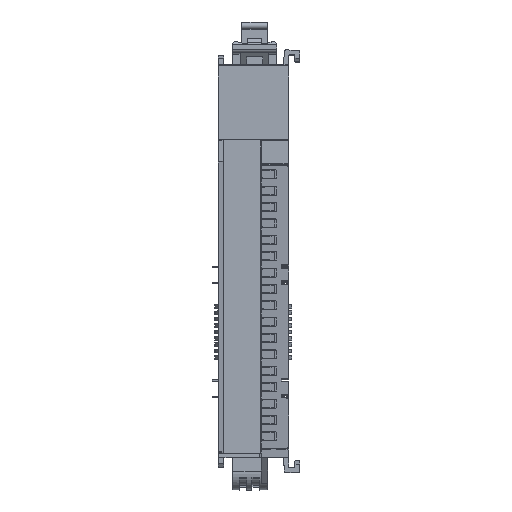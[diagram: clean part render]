
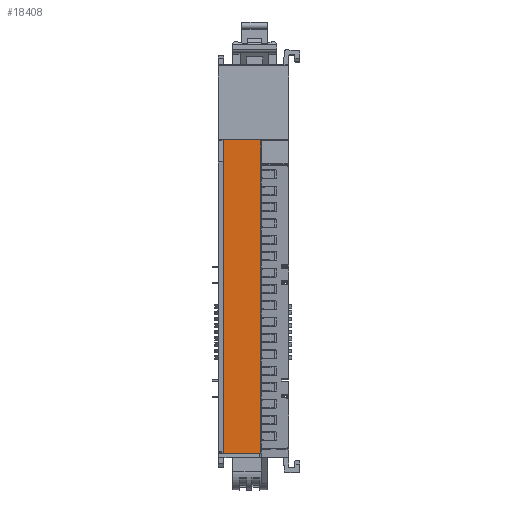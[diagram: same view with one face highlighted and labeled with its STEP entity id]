
A CAD part, top view. The second image highlights one B-rep face of the part: STEP entity #18408.
In plain terms, the highlighted planar face has unit normal (0, 0, 1).
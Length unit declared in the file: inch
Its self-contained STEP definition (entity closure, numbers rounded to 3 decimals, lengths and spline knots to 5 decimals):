
#713 = DIRECTION ( 'NONE',  ( -1., 0., 0. ) ) ;
#939 = CARTESIAN_POINT ( 'NONE',  ( 0.06693, 0.06378, 2.50039 ) ) ;
#1552 = CARTESIAN_POINT ( 'NONE',  ( 0.5315, 0.06299, 2.50039 ) ) ;
#2295 = VECTOR ( 'NONE', #713, 39.37008 ) ;
#3639 = ORIENTED_EDGE ( 'NONE', *, *, #43358, .F. ) ;
#3779 = ORIENTED_EDGE ( 'NONE', *, *, #12079, .F. ) ;
#3821 = CARTESIAN_POINT ( 'NONE',  ( 0.5315, 0., 2.50039 ) ) ;
#4985 = EDGE_CURVE ( 'NONE', #52271, #26016, #43661, .T. ) ;
#5657 = DIRECTION ( 'NONE',  ( 0., -1., 0. ) ) ;
#7130 = ORIENTED_EDGE ( 'NONE', *, *, #19186, .F. ) ;
#8092 = CARTESIAN_POINT ( 'NONE',  ( 0.5315, 0., 2.50039 ) ) ;
#8553 = CARTESIAN_POINT ( 'NONE',  ( 0.05906, 3.9315, 2.50039 ) ) ;
#8572 = EDGE_CURVE ( 'NONE', #52125, #51808, #25656, .T. ) ;
#10072 = CARTESIAN_POINT ( 'NONE',  ( 0.52362, 0., 2.50039 ) ) ;
#10416 = VERTEX_POINT ( 'NONE', #39641 ) ;
#11352 = VECTOR ( 'NONE', #12861, 39.37008 ) ;
#11648 = CARTESIAN_POINT ( 'NONE',  ( 0.5315, 0., 2.50039 ) ) ;
#11658 = CARTESIAN_POINT ( 'NONE',  ( 0.5315, 0.06299, 2.50039 ) ) ;
#12071 = VECTOR ( 'NONE', #44244, 39.37008 ) ;
#12079 = EDGE_CURVE ( 'NONE', #21714, #10416, #29607, .T. ) ;
#12861 = DIRECTION ( 'NONE',  ( -1., 0., 0. ) ) ;
#13766 = ORIENTED_EDGE ( 'NONE', *, *, #35011, .F. ) ;
#14727 = LINE ( 'NONE', #18818, #30316 ) ;
#15574 = DIRECTION ( 'NONE',  ( -1., 0., 0. ) ) ;
#15660 = LINE ( 'NONE', #24998, #2295 ) ;
#15873 = EDGE_CURVE ( 'NONE', #51808, #29801, #44230, .T. ) ;
#16010 = CARTESIAN_POINT ( 'NONE',  ( 0.52362, 0.06299, 2.50039 ) ) ;
#16937 = VERTEX_POINT ( 'NONE', #42719 ) ;
#18408 = ADVANCED_FACE ( 'NONE', ( #36446 ), #40502, .T. ) ;
#18818 = CARTESIAN_POINT ( 'NONE',  ( 0.05906, 0., 2.50039 ) ) ;
#19132 = DIRECTION ( 'NONE',  ( 0., 1., 0. ) ) ;
#19186 = EDGE_CURVE ( 'NONE', #43330, #21714, #30691, .T. ) ;
#19498 = EDGE_CURVE ( 'NONE', #29801, #39438, #38738, .T. ) ;
#20467 = VECTOR ( 'NONE', #44401, 39.37008 ) ;
#21714 = VERTEX_POINT ( 'NONE', #29123 ) ;
#22969 = EDGE_LOOP ( 'NONE', ( #47496, #32146, #58257, #34819, #13766, #45327, #35267, #3779, #7130, #3639, #58112 ) ) ;
#23353 = VECTOR ( 'NONE', #19132, 39.37008 ) ;
#24998 = CARTESIAN_POINT ( 'NONE',  ( 0.06693, 0.06378, 2.50039 ) ) ;
#25656 = LINE ( 'NONE', #11648, #37792 ) ;
#26016 = VERTEX_POINT ( 'NONE', #32064 ) ;
#27438 = LINE ( 'NONE', #31508, #45597 ) ;
#29123 = CARTESIAN_POINT ( 'NONE',  ( 0.52985, 0., 2.50039 ) ) ;
#29607 = LINE ( 'NONE', #29916, #12071 ) ;
#29801 = VERTEX_POINT ( 'NONE', #16010 ) ;
#29916 = CARTESIAN_POINT ( 'NONE',  ( 0.52985, 0.05551, 2.50039 ) ) ;
#30316 = VECTOR ( 'NONE', #37814, 39.37008 ) ;
#30640 = DIRECTION ( 'NONE',  ( 0., 1., 0. ) ) ;
#30691 = LINE ( 'NONE', #59060, #20467 ) ;
#31457 = DIRECTION ( 'NONE',  ( 1., 0., 0. ) ) ;
#31508 = CARTESIAN_POINT ( 'NONE',  ( 0., 0.05551, 2.50039 ) ) ;
#32064 = CARTESIAN_POINT ( 'NONE',  ( 0.06693, 0.05551, 2.50039 ) ) ;
#32146 = ORIENTED_EDGE ( 'NONE', *, *, #19498, .T. ) ;
#32724 = AXIS2_PLACEMENT_3D ( 'NONE', #8092, #60138, #31457 ) ;
#34819 = ORIENTED_EDGE ( 'NONE', *, *, #59572, .F. ) ;
#34967 = VERTEX_POINT ( 'NONE', #8553 ) ;
#35011 = EDGE_CURVE ( 'NONE', #52271, #16937, #15660, .T. ) ;
#35267 = ORIENTED_EDGE ( 'NONE', *, *, #49633, .T. ) ;
#36446 = FACE_OUTER_BOUND ( 'NONE', #22969, .T. ) ;
#37792 = VECTOR ( 'NONE', #30640, 39.37008 ) ;
#37814 = DIRECTION ( 'NONE',  ( 0., 1., 0. ) ) ;
#38738 = LINE ( 'NONE', #10072, #23353 ) ;
#39157 = CARTESIAN_POINT ( 'NONE',  ( 0.52362, 3.9315, 2.50039 ) ) ;
#39438 = VERTEX_POINT ( 'NONE', #55930 ) ;
#39641 = CARTESIAN_POINT ( 'NONE',  ( 0.52985, 0.05551, 2.50039 ) ) ;
#40502 = PLANE ( 'NONE',  #32724 ) ;
#41453 = VECTOR ( 'NONE', #15574, 39.37008 ) ;
#42719 = CARTESIAN_POINT ( 'NONE',  ( 0.05906, 0.06378, 2.50039 ) ) ;
#43330 = VERTEX_POINT ( 'NONE', #54932 ) ;
#43358 = EDGE_CURVE ( 'NONE', #52125, #43330, #50562, .T. ) ;
#43661 = LINE ( 'NONE', #52405, #55276 ) ;
#43823 = LINE ( 'NONE', #39157, #56686 ) ;
#44230 = LINE ( 'NONE', #1552, #41453 ) ;
#44244 = DIRECTION ( 'NONE',  ( 0., 1., 0. ) ) ;
#44401 = DIRECTION ( 'NONE',  ( -1., 0., 0. ) ) ;
#45327 = ORIENTED_EDGE ( 'NONE', *, *, #4985, .T. ) ;
#45597 = VECTOR ( 'NONE', #50510, 39.37008 ) ;
#47496 = ORIENTED_EDGE ( 'NONE', *, *, #15873, .T. ) ;
#49147 = EDGE_CURVE ( 'NONE', #39438, #34967, #43823, .T. ) ;
#49633 = EDGE_CURVE ( 'NONE', #26016, #10416, #27438, .T. ) ;
#50510 = DIRECTION ( 'NONE',  ( 1., 0., 0. ) ) ;
#50562 = LINE ( 'NONE', #3821, #11352 ) ;
#51808 = VERTEX_POINT ( 'NONE', #11658 ) ;
#52125 = VERTEX_POINT ( 'NONE', #55527 ) ;
#52271 = VERTEX_POINT ( 'NONE', #939 ) ;
#52405 = CARTESIAN_POINT ( 'NONE',  ( 0.06693, 3.64567, 2.50039 ) ) ;
#54932 = CARTESIAN_POINT ( 'NONE',  ( 0.5311, 0., 2.50039 ) ) ;
#55276 = VECTOR ( 'NONE', #5657, 39.37008 ) ;
#55527 = CARTESIAN_POINT ( 'NONE',  ( 0.5315, 0., 2.50039 ) ) ;
#55930 = CARTESIAN_POINT ( 'NONE',  ( 0.52362, 3.9315, 2.50039 ) ) ;
#56686 = VECTOR ( 'NONE', #58175, 39.37008 ) ;
#58112 = ORIENTED_EDGE ( 'NONE', *, *, #8572, .T. ) ;
#58175 = DIRECTION ( 'NONE',  ( -1., 0., 0. ) ) ;
#58257 = ORIENTED_EDGE ( 'NONE', *, *, #49147, .T. ) ;
#59060 = CARTESIAN_POINT ( 'NONE',  ( 0.5315, 0., 2.50039 ) ) ;
#59572 = EDGE_CURVE ( 'NONE', #16937, #34967, #14727, .T. ) ;
#60138 = DIRECTION ( 'NONE',  ( 0., 0., 1. ) ) ;
